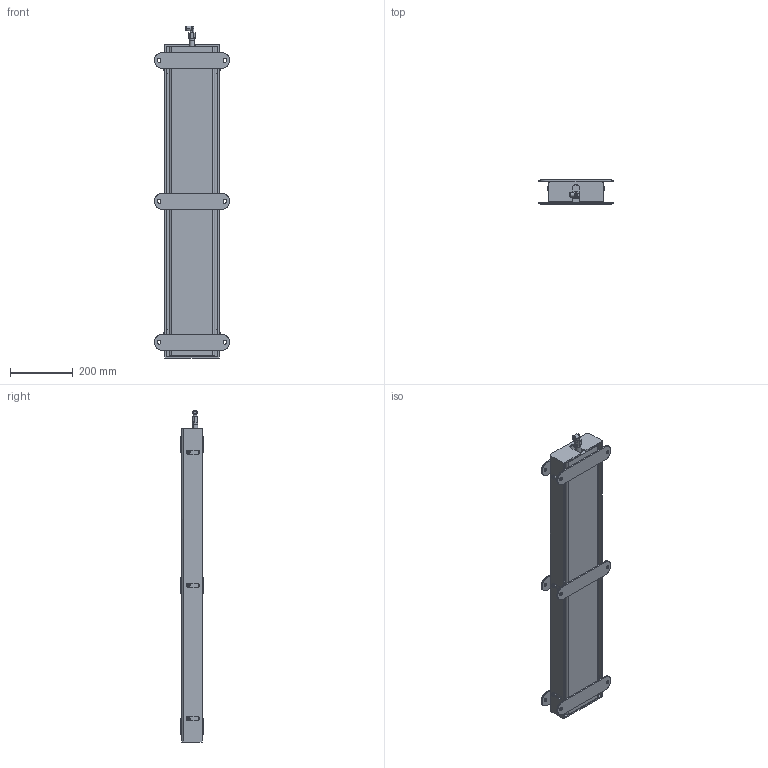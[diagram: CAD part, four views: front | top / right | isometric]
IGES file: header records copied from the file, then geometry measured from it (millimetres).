
Start section: 3D InterOp IGES (Version 21 0 2), Spatial Corp. Copyright (c) 1999-2007.
Global section: file name: ALB-WB-1000_L.igs; native system: Spatial Corp.; preprocessor: 3D InterOp GENERIC/IGES 3.0; author: Noname; organization: Noname; date: 20130315.165051; units: millimetre
Bounding box: 240 x 75 x 1060 mm (x, y, z)
Surface area: 1335091.5 mm2 (no closed solid volume)
Topology: 0 solids, 0 shells, 385 faces, 2292 edges, 2276 vertices
Faces by surface type: bspline 385
